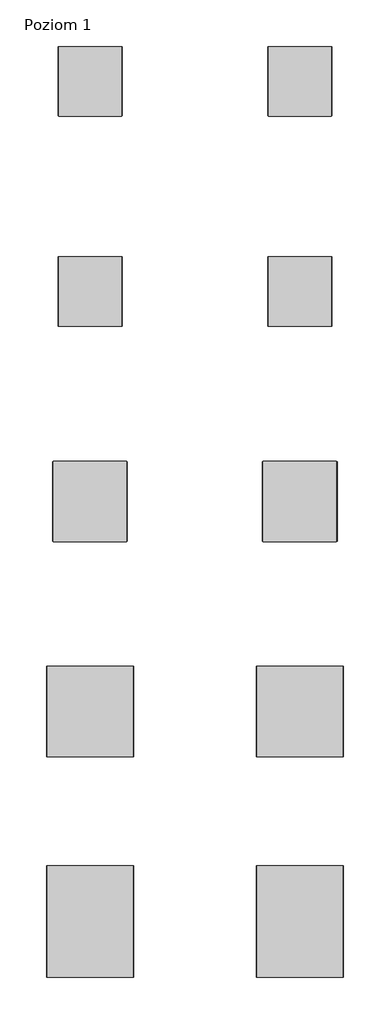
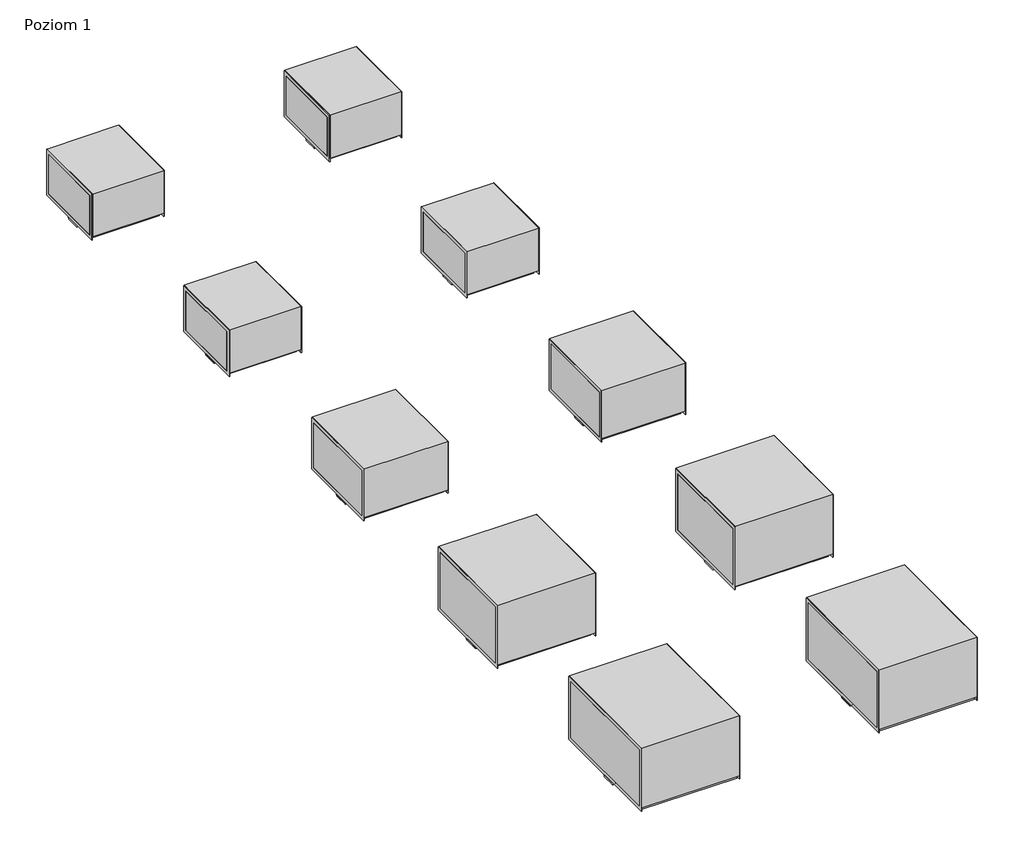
# One storey: 10 unitary equipment elements.
"""IFC4 building model written with IfcOpenShell, lengths in millimetres."""

from ifc_helpers import new_model, si_unit, origin, place, context, project, spatial, transform, mapped, element, save
from components import unitary_equipment_c6848e68, unitary_equipment_44b9685f, unitary_equipment_5d32bfe2, unitary_equipment_e0532d33

model = new_model("IFC4")

# Units and contexts
model_context = context("Model", 3, world=origin())
ifc_project = project(units=[si_unit("LENGTHUNIT", "METRE", prefix="MILLI")], contexts=[model_context])

# Site, building, storey
site = spatial("IfcSite", under=ifc_project)
building = spatial("IfcBuilding", under=site)
storey = spatial("IfcBuildingStorey", under=building, Name="Poziom 1", Elevation=0.0)

# Unitary equipment
placement = place(None, origin())
unitary_equipment_shape = unitary_equipment_c6848e68(model_context)
element("IfcUnitaryEquipment", 1, ObjectType="VE-Wentylator-ParaForma-Harmann-DRBI-Nawiewny : 060/35/2800S", at=placement, inside=storey, context=model_context, shape_type="MappedRepresentation", body=[
    mapped(unitary_equipment_shape, transform((6582.5, 1000.0, 0.0), x_axis=(1.0, 0.0, 0.0), y_axis=(0.0, 1.0, 0.0), z_axis=(0.0, 0.0, 1.0))),
])
element("IfcUnitaryEquipment", 2, ObjectType="VE-Wentylator-ParaForma-Harmann-DRBI-Nawiewny : 060/35/3600S", at=placement, inside=storey, context=model_context, shape_type="MappedRepresentation", body=[
    mapped(unitary_equipment_shape, transform((6582.5, -1000.0, 0.0), x_axis=(1.0, 0.0, 0.0), y_axis=(0.0, 1.0, 0.0), z_axis=(0.0, 0.0, 1.0))),
])
unitary_equipment_2_shape = unitary_equipment_44b9685f(model_context)
element("IfcUnitaryEquipment", 3, ObjectType="VE-Wentylator-ParaForma-Harmann-DRBI-Nawiewny : 070/40/4700T", at=placement, inside=storey, context=model_context, shape_type="MappedRepresentation", body=[
    mapped(unitary_equipment_2_shape, transform((6582.5, -3000.0, 0.0), x_axis=(1.0, 0.0, 0.0), y_axis=(0.0, 1.0, 0.0), z_axis=(0.0, 0.0, 1.0))),
])
unitary_equipment_3_shape = unitary_equipment_5d32bfe2(model_context)
element("IfcUnitaryEquipment", 4, ObjectType="VE-Wentylator-ParaForma-Harmann-DRBI-Nawiewny : 080/50/8200T", at=placement, inside=storey, context=model_context, shape_type="MappedRepresentation", body=[
    mapped(unitary_equipment_3_shape, transform((6582.5, -5000.0, 0.0), x_axis=(1.0, 0.0, 0.0), y_axis=(0.0, 1.0, 0.0), z_axis=(0.0, 0.0, 1.0))),
])
unitary_equipment_4_shape = unitary_equipment_e0532d33(model_context)
element("IfcUnitaryEquipment", 5, ObjectType="VE-Wentylator-ParaForma-Harmann-DRBI-Nawiewny : 100/50/10500T", at=placement, inside=storey, context=model_context, shape_type="MappedRepresentation", body=[
    mapped(unitary_equipment_4_shape, transform((6582.5, -7000.0, 0.0), x_axis=(1.0, 0.0, 0.0), y_axis=(0.0, 1.0, 0.0), z_axis=(0.0, 0.0, 1.0))),
])
element("IfcUnitaryEquipment", 6, ObjectType="VE-Wentylator-ParaForma-Harmann-DRBI-Wywiewny : 060/35/2800S", at=placement, inside=storey, context=model_context, shape_type="MappedRepresentation", body=[
    mapped(unitary_equipment_shape, transform((4582.5, 1000.0, 0.0), x_axis=(1.0, 0.0, 0.0), y_axis=(0.0, 1.0, 0.0), z_axis=(0.0, 0.0, 1.0))),
])
element("IfcUnitaryEquipment", 7, ObjectType="VE-Wentylator-ParaForma-Harmann-DRBI-Wywiewny : 060/35/3600S", at=placement, inside=storey, context=model_context, shape_type="MappedRepresentation", body=[
    mapped(unitary_equipment_shape, transform((4582.5, -1000.0, 0.0), x_axis=(1.0, 0.0, 0.0), y_axis=(0.0, 1.0, 0.0), z_axis=(0.0, 0.0, 1.0))),
])
element("IfcUnitaryEquipment", 8, ObjectType="VE-Wentylator-ParaForma-Harmann-DRBI-Wywiewny : 070/40/4700T", at=placement, inside=storey, context=model_context, shape_type="MappedRepresentation", body=[
    mapped(unitary_equipment_2_shape, transform((4582.5, -3000.0, 0.0), x_axis=(1.0, 0.0, 0.0), y_axis=(0.0, 1.0, 0.0), z_axis=(0.0, 0.0, 1.0))),
])
element("IfcUnitaryEquipment", 9, ObjectType="VE-Wentylator-ParaForma-Harmann-DRBI-Wywiewny : 080/50/8200T", at=placement, inside=storey, context=model_context, shape_type="MappedRepresentation", body=[
    mapped(unitary_equipment_3_shape, transform((4582.5, -5000.0, 0.0), x_axis=(1.0, 0.0, 0.0), y_axis=(0.0, 1.0, 0.0), z_axis=(0.0, 0.0, 1.0))),
])
element("IfcUnitaryEquipment", 10, ObjectType="VE-Wentylator-ParaForma-Harmann-DRBI-Wywiewny : 100/50/10500T", at=placement, inside=storey, context=model_context, shape_type="MappedRepresentation", body=[
    mapped(unitary_equipment_4_shape, transform((4582.5, -7000.0, 0.0), x_axis=(1.0, 0.0, 0.0), y_axis=(0.0, 1.0, 0.0), z_axis=(0.0, 0.0, 1.0))),
])

save(model, "model.ifc")
